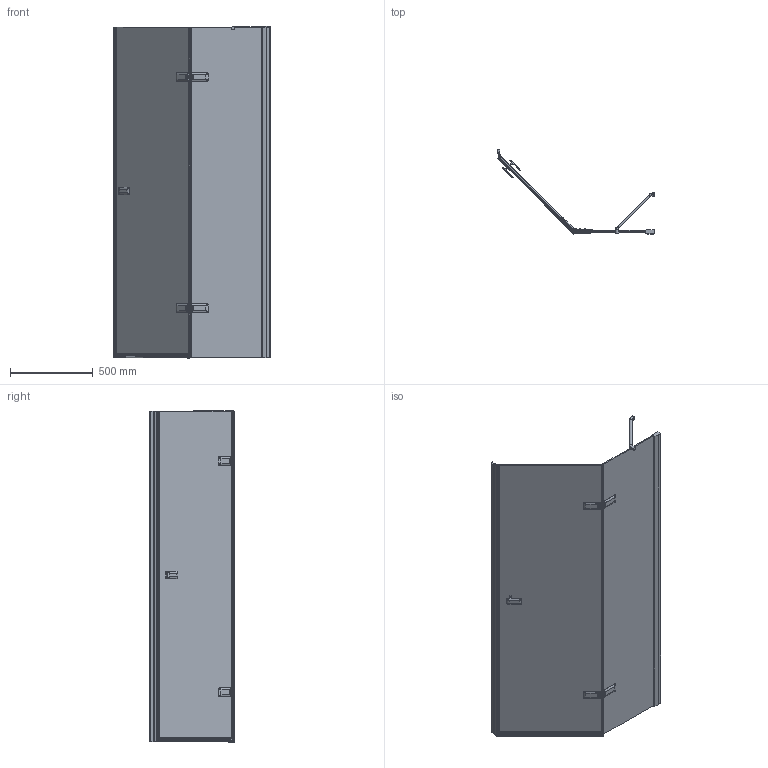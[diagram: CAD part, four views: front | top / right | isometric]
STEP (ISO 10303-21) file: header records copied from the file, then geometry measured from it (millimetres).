
FILE_DESCRIPTION(/* description */ (''),/* implementation_level */ '2;1');
FILE_NAME(/* name */ 'E:\Работа\Сергей\Душевые кабинки\! Работа\TREND DOOR GK-862AGP135TWO-01\TREND DOOR GK-862AGP135TWO-01 правая модель\TREND DOOR GK-862AGP135TWO-01 ПРАВАЯ-3D.stp',/* time_stamp */ '2017-08-27T10:43:44+03:00',/* author */ ('PC'),/* organization */ (''),/* preprocessor_version */ 'ST-DEVELOPER v15.2',/* originating_system */ 'Autodesk Inventor 2014',/* authorisation */ '');
FILE_SCHEMA (('AUTOMOTIVE_DESIGN { 1 0 10303 214 3 1 1 }'));
Products named in the file (1): TREND DOOR GK-862AGP135TWO-01 \X2\041F0420041004120410
042F\X0\-3D
Bounding box: 945.91 x 509.25 x 2009.49 mm (x, y, z)
Volume: 18420951.3 mm3; surface area: 5082326.4 mm2
Topology: 5 solids, 5 shells, 1217 faces, 3330 edges, 2085 vertices
Faces by surface type: plane 718, cylinder 316, bspline 136, torus 21, cone 18, sphere 8
Full cylindrical faces by diameter (mm): 6 x2, 9 x8, 13 x2, 15 x1, 20 x2, 26 x1
Entity records: 55285 total; most frequent: CARTESIAN_POINT 23936, ORIENTED_EDGE 6500, DIRECTION 6051, EDGE_CURVE 3248, VERTEX_POINT 2071, AXIS2_PLACEMENT_3D 2024, LINE 2003, VECTOR 2003
